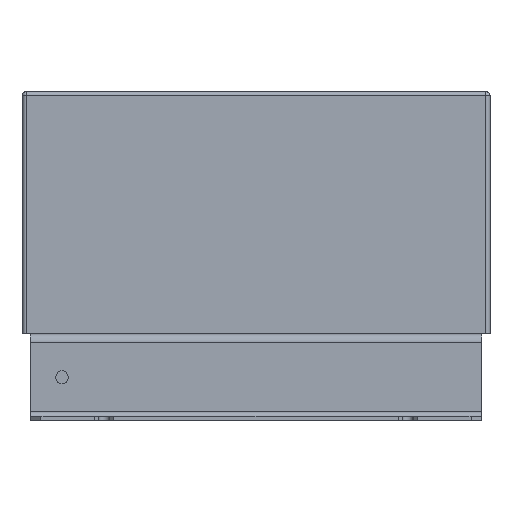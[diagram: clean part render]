
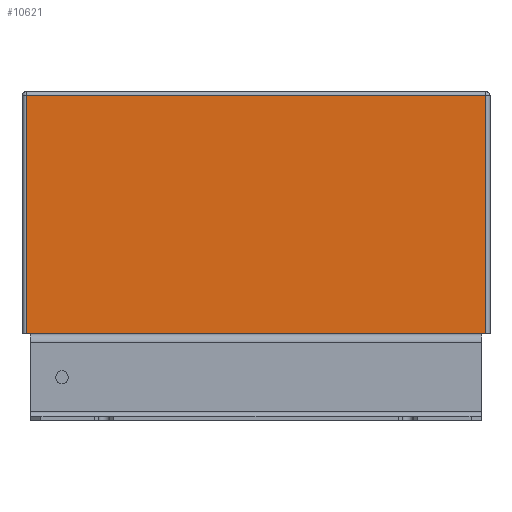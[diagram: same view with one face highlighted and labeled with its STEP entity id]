
A CAD part, front view. The second image highlights one B-rep face of the part: STEP entity #10621.
In plain terms, the highlighted planar face has unit normal (0, -1, 0).
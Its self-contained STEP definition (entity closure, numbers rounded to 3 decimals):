
#764=FACE_OUTER_BOUND('',#1474,.T.);
#1474=EDGE_LOOP('',(#9537,#9538,#9539,#9540,#9541,#9542));
#2207=LINE('',#15139,#3622);
#2771=LINE('',#16290,#4186);
#2774=LINE('',#16304,#4189);
#2778=LINE('',#16310,#4193);
#2785=LINE('',#16323,#4200);
#2886=LINE('',#16552,#4301);
#3622=VECTOR('',#12149,10.);
#4186=VECTOR('',#13363,10.);
#4189=VECTOR('',#13378,10.);
#4193=VECTOR('',#13386,10.);
#4200=VECTOR('',#13401,10.);
#4301=VECTOR('',#13606,10.);
#4925=VERTEX_POINT('',#15136);
#4926=VERTEX_POINT('',#15138);
#5188=VERTEX_POINT('',#16286);
#5189=VERTEX_POINT('',#16293);
#5192=VERTEX_POINT('',#16300);
#5195=VERTEX_POINT('',#16322);
#5993=EDGE_CURVE('',#4926,#4925,#2207,.T.);
#6569=EDGE_CURVE('',#4926,#5188,#2771,.T.);
#6576=EDGE_CURVE('',#5189,#5192,#2774,.T.);
#6580=EDGE_CURVE('',#5188,#5189,#2778,.T.);
#6587=EDGE_CURVE('',#5195,#5192,#2785,.T.);
#6700=EDGE_CURVE('',#5195,#4925,#2886,.T.);
#9537=ORIENTED_EDGE('',*,*,#6569,.F.);
#9538=ORIENTED_EDGE('',*,*,#5993,.T.);
#9539=ORIENTED_EDGE('',*,*,#6700,.F.);
#9540=ORIENTED_EDGE('',*,*,#6587,.T.);
#9541=ORIENTED_EDGE('',*,*,#6576,.F.);
#9542=ORIENTED_EDGE('',*,*,#6580,.F.);
#10125=PLANE('',#11173);
#10621=ADVANCED_FACE('',(#764),#10125,.T.);
#11173=AXIS2_PLACEMENT_3D('',#16551,#13604,#13605);
#12149=DIRECTION('',(1.,0.,0.));
#13363=DIRECTION('',(0.,0.,1.));
#13378=DIRECTION('',(0.,0.,-1.));
#13386=DIRECTION('',(1.,0.,0.));
#13401=DIRECTION('',(1.,0.,0.));
#13604=DIRECTION('center_axis',(0.,-1.,0.));
#13605=DIRECTION('ref_axis',(1.,0.,0.));
#13606=DIRECTION('',(-1.,0.,0.));
#15136=CARTESIAN_POINT('',(-107.,-238.,2.));
#15138=CARTESIAN_POINT('',(-109.,-238.,2.));
#15139=CARTESIAN_POINT('',(-111.,-238.,2.));
#16286=CARTESIAN_POINT('',(-109.,-238.,115.));
#16290=CARTESIAN_POINT('',(-109.,-238.,2.));
#16293=CARTESIAN_POINT('',(109.,-238.,115.));
#16300=CARTESIAN_POINT('',(109.,-238.,2.));
#16304=CARTESIAN_POINT('',(109.,-238.,2.));
#16310=CARTESIAN_POINT('',(-55.5,-238.,115.));
#16322=CARTESIAN_POINT('',(107.,-238.,2.));
#16323=CARTESIAN_POINT('',(-111.,-238.,2.));
#16551=CARTESIAN_POINT('Origin',(-111.,-238.,2.));
#16552=CARTESIAN_POINT('',(0.,-238.,2.));
